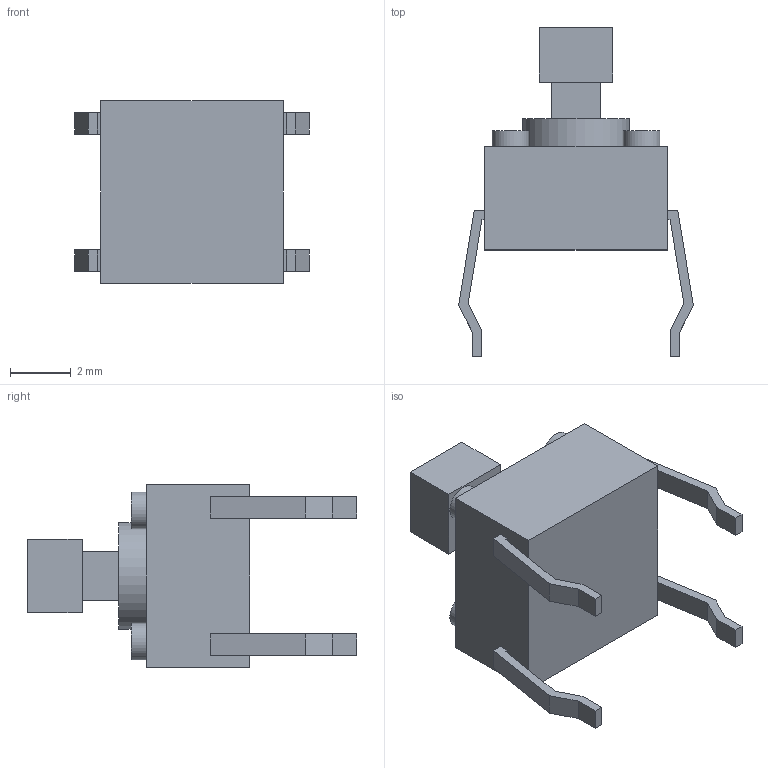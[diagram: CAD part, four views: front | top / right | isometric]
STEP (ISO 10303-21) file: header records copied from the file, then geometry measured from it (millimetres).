
FILE_DESCRIPTION(/* description */ (''),/* implementation_level */ '2;1');
FILE_NAME(/* name */ 'B3F-1052-no-button.step',/* time_stamp */ '2024-06-26T23:01:33-07:00',/* author */ (''),/* organization */ (''),/* preprocessor_version */ 'ST-DEVELOPER v20',/* originating_system */ 'Autodesk Translation Framework v13.14.0.145',/* authorisation */ '');
FILE_SCHEMA (('AUTOMOTIVE_DESIGN { 1 0 10303 214 3 1 1 }'));
Length unit declared in the file: millimetre
Products named in the file (3): B3F-1052; B3F_1052_BUTTON; B3F_1052_BASE
Assembly tree (2 placements, depth 2):
  B3F-1052
    B3F_1052_BUTTON
    B3F_1052_BASE
Bounding box: 7.7 x 10.8 x 6 mm (x, y, z)
Volume: 139.5 mm3; surface area: 281.7 mm2
Topology: 2 solids, 2 shells, 75 faces, 177 edges, 118 vertices
Faces by surface type: plane 68, cylinder 7
Full cylindrical faces by diameter (mm): 1.2 x4, 1.4 x1, 3.5 x2
Entity records: 2210 total; most frequent: CARTESIAN_POINT 375, ORIENTED_EDGE 354, DIRECTION 351, EDGE_CURVE 177, LINE 163, VECTOR 163, VERTEX_POINT 118, AXIS2_PLACEMENT_3D 94
